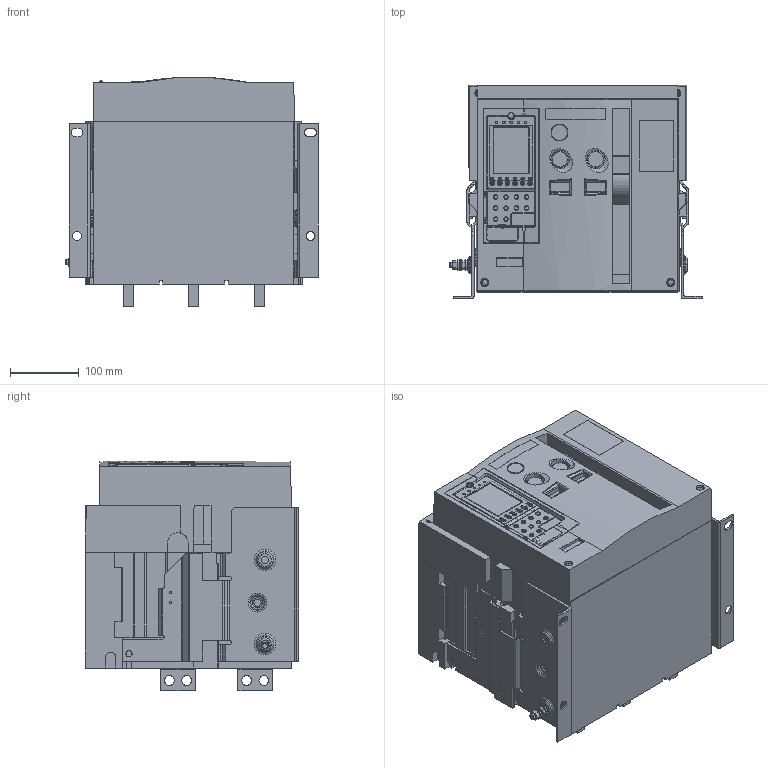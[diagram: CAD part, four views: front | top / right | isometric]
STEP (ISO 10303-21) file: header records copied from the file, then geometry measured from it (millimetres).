
FILE_DESCRIPTION (( 'STEP AP214' ), '1' );
FILE_NAME ('OptiMat A-S2-B-630-1600-3P-F-V.STEP', '2023-10-18T11:11:18', ( '' ), ( '' ), 'SwSTEP 2.0', 'SolidWorks 2018', '' );
FILE_SCHEMA (( 'AUTOMOTIVE_DESIGN' ));
Length unit declared in the file: millimetre
Products named in the file (1): OptiMat A-S2-B-630-1600-3P-F-V
Bounding box: 366 x 310 x 333.36 mm (x, y, z)
Volume: 24487633 mm3; surface area: 1184218.2 mm2
Topology: 14 solids, 34 shells, 3959 faces, 10155 edges, 6389 vertices
Faces by surface type: plane 1565, cylinder 1341, cone 568, torus 262, bspline 177, sphere 46
Entity records: 176849 total; most frequent: CARTESIAN_POINT 39460, ORIENTED_EDGE 20226, DIRECTION 19862, EDGE_CURVE 10113, AXIS2_PLACEMENT_3D 7254, VERTEX_POINT 6379, VECTOR 5354, LINE 5354
